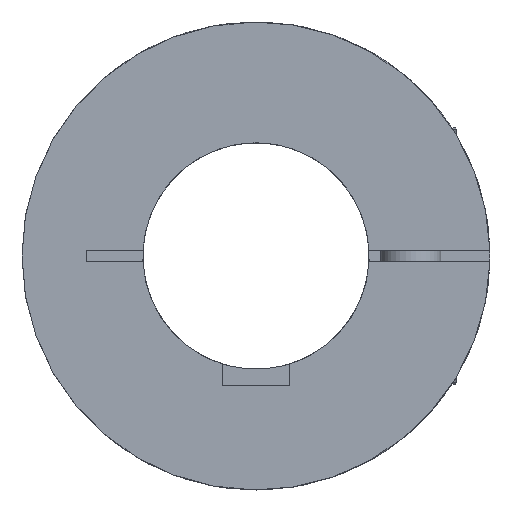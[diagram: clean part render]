
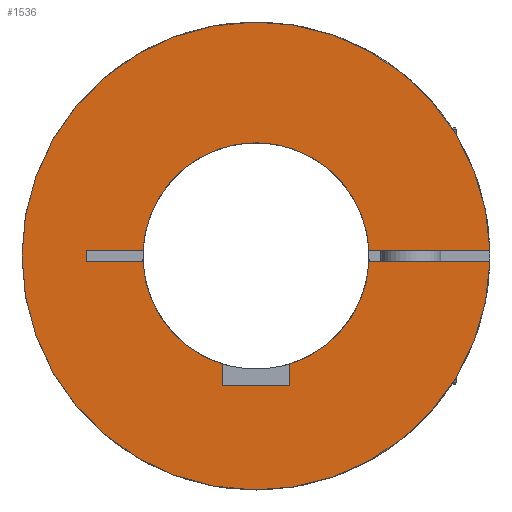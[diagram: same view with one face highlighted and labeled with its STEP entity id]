
A CAD part, left-side view. The second image highlights one B-rep face of the part: STEP entity #1536.
In plain terms, the highlighted planar face has unit normal (-1, 0, 0).
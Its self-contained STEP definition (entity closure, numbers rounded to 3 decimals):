
#43=PLANE('',#1751);
#132=LINE('',#2732,#239);
#135=LINE('',#2738,#242);
#136=LINE('',#2740,#243);
#148=LINE('',#2762,#255);
#152=LINE('',#2768,#259);
#181=LINE('',#2829,#288);
#182=LINE('',#2832,#289);
#187=LINE('',#2841,#294);
#239=VECTOR('',#2090,1.);
#242=VECTOR('',#2095,1.);
#243=VECTOR('',#2098,1.);
#255=VECTOR('',#2118,27.564);
#259=VECTOR('',#2126,44.546);
#288=VECTOR('',#2185,44.546);
#289=VECTOR('',#2188,27.564);
#294=VECTOR('',#2201,3.);
#394=FACE_OUTER_BOUND('',#493,.T.);
#493=EDGE_LOOP('',(#1320,#1321,#1322,#1323,#1324,#1325,#1326,#1327,#1328,
#1329,#1330,#1331));
#624=CIRCLE('',#1692,62.);
#642=CIRCLE('',#1717,30.);
#644=CIRCLE('',#1719,30.);
#645=CIRCLE('',#1721,30.);
#725=VERTEX_POINT('',#2559);
#726=VERTEX_POINT('',#2561);
#753=VERTEX_POINT('',#2705);
#754=VERTEX_POINT('',#2707);
#757=VERTEX_POINT('',#2713);
#758=VERTEX_POINT('',#2715);
#759=VERTEX_POINT('',#2719);
#760=VERTEX_POINT('',#2720);
#764=VERTEX_POINT('',#2730);
#766=VERTEX_POINT('',#2736);
#772=VERTEX_POINT('',#2760);
#790=VERTEX_POINT('',#2831);
#902=EDGE_CURVE('',#725,#726,#624,.T.);
#935=EDGE_CURVE('',#754,#753,#642,.T.);
#939=EDGE_CURVE('',#758,#757,#644,.T.);
#941=EDGE_CURVE('',#759,#760,#645,.T.);
#947=EDGE_CURVE('',#757,#764,#132,.T.);
#950=EDGE_CURVE('',#764,#766,#135,.T.);
#951=EDGE_CURVE('',#766,#754,#136,.T.);
#963=EDGE_CURVE('',#772,#753,#148,.T.);
#967=EDGE_CURVE('',#726,#760,#152,.T.);
#996=EDGE_CURVE('',#725,#758,#181,.T.);
#997=EDGE_CURVE('',#790,#759,#182,.T.);
#1002=EDGE_CURVE('',#790,#772,#187,.T.);
#1320=ORIENTED_EDGE('',*,*,#935,.T.);
#1321=ORIENTED_EDGE('',*,*,#963,.F.);
#1322=ORIENTED_EDGE('',*,*,#1002,.F.);
#1323=ORIENTED_EDGE('',*,*,#997,.T.);
#1324=ORIENTED_EDGE('',*,*,#941,.T.);
#1325=ORIENTED_EDGE('',*,*,#967,.F.);
#1326=ORIENTED_EDGE('',*,*,#902,.F.);
#1327=ORIENTED_EDGE('',*,*,#996,.T.);
#1328=ORIENTED_EDGE('',*,*,#939,.T.);
#1329=ORIENTED_EDGE('',*,*,#947,.T.);
#1330=ORIENTED_EDGE('',*,*,#950,.T.);
#1331=ORIENTED_EDGE('',*,*,#951,.T.);
#1536=ADVANCED_FACE('',(#394),#43,.T.);
#1692=AXIS2_PLACEMENT_3D('',#2562,#2006,#2007);
#1717=AXIS2_PLACEMENT_3D('',#2708,#2069,#2070);
#1719=AXIS2_PLACEMENT_3D('',#2716,#2075,#2076);
#1721=AXIS2_PLACEMENT_3D('',#2721,#2080,#2081);
#1751=AXIS2_PLACEMENT_3D('',#2840,#2199,#2200);
#2006=DIRECTION('center_axis',(1.,0.,0.));
#2007=DIRECTION('ref_axis',(0.,1.,-0.024));
#2069=DIRECTION('center_axis',(1.,0.,0.));
#2070=DIRECTION('ref_axis',(0.,0.,-1.));
#2075=DIRECTION('center_axis',(1.,0.,0.));
#2076=DIRECTION('ref_axis',(0.,0.,-1.));
#2080=DIRECTION('center_axis',(1.,0.,0.));
#2081=DIRECTION('ref_axis',(0.,0.,-1.));
#2090=DIRECTION('',(0.,0.,-1.));
#2095=DIRECTION('',(0.,1.,0.));
#2098=DIRECTION('',(0.,0.,1.));
#2118=DIRECTION('',(0.,-1.,0.));
#2126=DIRECTION('',(0.,1.,0.));
#2185=DIRECTION('',(0.,1.,0.));
#2188=DIRECTION('',(0.,-1.,0.));
#2199=DIRECTION('center_axis',(-1.,0.,0.));
#2200=DIRECTION('ref_axis',(0.,-1.,0.));
#2201=DIRECTION('',(0.,0.,-1.));
#2559=CARTESIAN_POINT('',(0.,-61.982,-1.5));
#2561=CARTESIAN_POINT('',(0.,-61.982,1.5));
#2562=CARTESIAN_POINT('Origin',(0.,0.,0.));
#2705=CARTESIAN_POINT('',(0.,29.962,-1.5));
#2707=CARTESIAN_POINT('',(0.,9.,-28.618));
#2708=CARTESIAN_POINT('Origin',(0.,0.,0.));
#2713=CARTESIAN_POINT('',(0.,-9.,-28.618));
#2715=CARTESIAN_POINT('',(0.,-29.962,-1.5));
#2716=CARTESIAN_POINT('Origin',(0.,0.,0.));
#2719=CARTESIAN_POINT('',(0.,29.962,1.5));
#2720=CARTESIAN_POINT('',(0.,-29.962,1.5));
#2721=CARTESIAN_POINT('Origin',(0.,0.,0.));
#2730=CARTESIAN_POINT('',(0.,-9.,-34.4));
#2732=CARTESIAN_POINT('',(0.,-9.,-17.35));
#2736=CARTESIAN_POINT('',(0.,9.,-34.4));
#2738=CARTESIAN_POINT('',(0.,0.,-34.4));
#2740=CARTESIAN_POINT('',(0.,9.,-17.35));
#2760=CARTESIAN_POINT('',(0.,45.,-1.5));
#2762=CARTESIAN_POINT('',(0.,45.,-1.5));
#2768=CARTESIAN_POINT('',(0.,-61.982,1.5));
#2829=CARTESIAN_POINT('',(0.,-61.982,-1.5));
#2831=CARTESIAN_POINT('',(0.,45.,1.5));
#2832=CARTESIAN_POINT('',(0.,45.,1.5));
#2840=CARTESIAN_POINT('Origin',(0.,0.,-17.5));
#2841=CARTESIAN_POINT('',(0.,45.,1.5));
